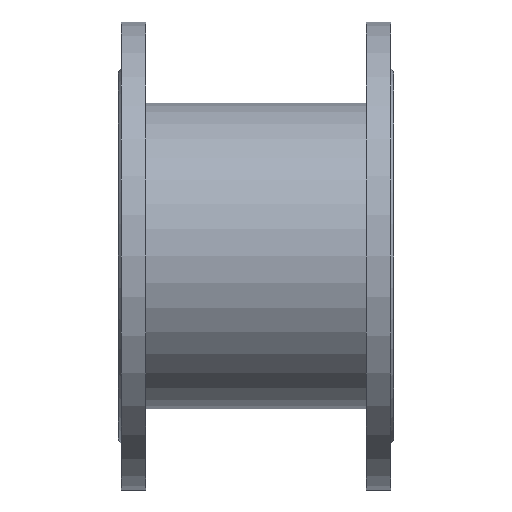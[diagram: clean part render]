
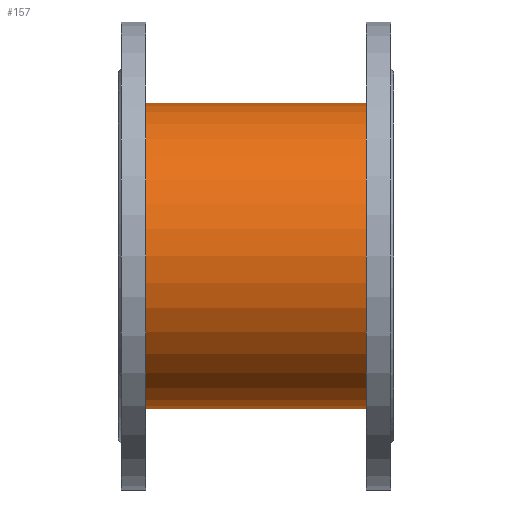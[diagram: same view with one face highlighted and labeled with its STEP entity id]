
A CAD part, front view. The second image highlights one B-rep face of the part: STEP entity #157.
In plain terms, the highlighted cylindrical face has radius 111 mm (diameter 222 mm), a partial arc.
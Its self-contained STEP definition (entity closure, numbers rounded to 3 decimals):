
#157=ADVANCED_FACE('',(#371),#372,.T.);
#371=FACE_OUTER_BOUND('',#699,.T.);
#372=CYLINDRICAL_SURFACE('',#700,111.0);
#699=EDGE_LOOP('',(#1043,#1044,#1045,#1046));
#700=AXIS2_PLACEMENT_3D('',#1047,#1048,#1049);
#1043=ORIENTED_EDGE('',*,*,#1745,.T.);
#1044=ORIENTED_EDGE('',*,*,#1746,.T.);
#1045=ORIENTED_EDGE('',*,*,#1747,.T.);
#1046=ORIENTED_EDGE('',*,*,#1748,.T.);
#1047=CARTESIAN_POINT('',(10.0,0.0,0.));
#1048=DIRECTION('',(1.0,0.0,0.));
#1049=DIRECTION('',(0.,0.0,-1.0));
#1745=EDGE_CURVE('',#2080,#2081,#2082,.T.);
#1746=EDGE_CURVE('',#2081,#2083,#2084,.T.);
#1747=EDGE_CURVE('',#2083,#2085,#2086,.T.);
#1748=EDGE_CURVE('',#2085,#2080,#2087,.T.);
#2080=VERTEX_POINT('',#2515);
#2081=VERTEX_POINT('',#2516);
#2082=LINE('',#2517,#2518);
#2083=VERTEX_POINT('',#2519);
#2084=CIRCLE('',#2520,111.0);
#2085=VERTEX_POINT('',#2521);
#2086=LINE('',#2522,#2523);
#2087=CIRCLE('',#2524,111.0);
#2515=CARTESIAN_POINT('',(10.0,0.0,-111.0));
#2516=CARTESIAN_POINT('',(190.0,0.0,-111.0));
#2517=CARTESIAN_POINT('',(10.0,0.,-111.0));
#2518=VECTOR('',#3014,1.0);
#2519=CARTESIAN_POINT('',(190.0,0.,111.0));
#2520=AXIS2_PLACEMENT_3D('',#3015,#3016,#3017);
#2521=CARTESIAN_POINT('',(10.,0.,111.0));
#2522=CARTESIAN_POINT('',(10.,0.,111.0));
#2523=VECTOR('',#3018,1.0);
#2524=AXIS2_PLACEMENT_3D('',#3019,#3020,#3021);
#3014=DIRECTION('',(1.0,0.0,0.));
#3015=CARTESIAN_POINT('',(190.0,0.0,0.));
#3016=DIRECTION('',(-1.0,-0.0,0.));
#3017=DIRECTION('',(0.,0.0,-1.0));
#3018=DIRECTION('',(-1.0,-0.0,0.));
#3019=CARTESIAN_POINT('',(10.0,0.0,0.));
#3020=DIRECTION('',(1.0,0.0,0.));
#3021=DIRECTION('',(0.,0.0,-1.0));
